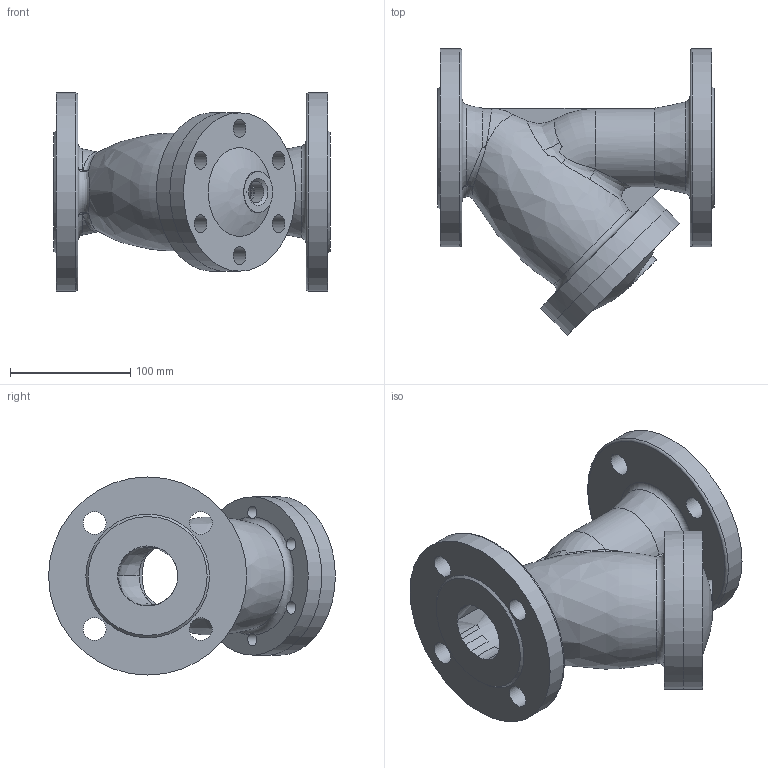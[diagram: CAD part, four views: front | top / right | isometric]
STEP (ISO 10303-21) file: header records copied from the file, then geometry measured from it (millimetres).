
FILE_DESCRIPTION(/* description */ ('STEP AP203'),/* implementation_level */ '2;1');
FILE_NAME(/* name */ '',/* time_stamp */ '2024-11-28T18:31:54+07:00',/* author */ ('Eva'),/* organization */ (''),/* preprocessor_version */ 'ST-DEVELOPER v20',/* originating_system */ 'Autodesk Inventor 2025',/* authorisation */ '');
FILE_SCHEMA (('AUTOMOTIVE_DESIGN { 1 0 10303 214 3 1 1 }'));
Length unit declared in the file: metre
Products named in the file (4): 德标过滤器50装配体; 德标过滤器50装配体(2); 50阀体 - 副本; 50阀盖
Assembly tree (3 placements, depth 3):
  德标过滤器50装配体
    德标过滤器50装配体(2)
      50阀体 - 副本
      50阀盖
Bounding box: 230 x 238.77 x 165 mm (x, y, z)
Volume: 1500617.6 mm3; surface area: 283382.7 mm2
Topology: 2 solids, 2 shells, 195 faces, 523 edges, 344 vertices
Faces by surface type: plane 75, cylinder 61, bspline 32, torus 19, cone 6, sphere 2
Full cylindrical faces by diameter (mm): 10.5 x6, 15 x6, 17 x1, 18 x1, 19 x8, 34 x1, 50 x2, 60 x1, 61 x1, 132 x2, 165 x2
Entity records: 13656 total; most frequent: CARTESIAN_POINT 8747, ORIENTED_EDGE 1044, DIRECTION 934, EDGE_CURVE 522, AXIS2_PLACEMENT_3D 378, VERTEX_POINT 344, EDGE_LOOP 254, CIRCLE 206
